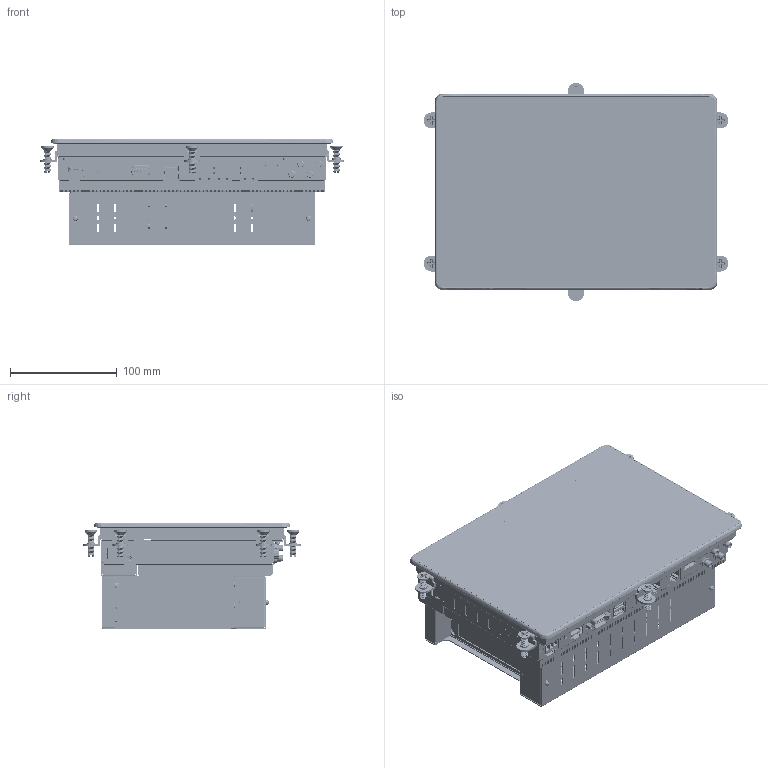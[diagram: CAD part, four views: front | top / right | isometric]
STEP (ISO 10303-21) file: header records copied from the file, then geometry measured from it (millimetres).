
FILE_DESCRIPTION((''),'2;1');
FILE_NAME('NP4C-101-Z','2026-06-02T10:06:03',('gijyu181'),(''),'CREO PARAMETRIC BY PTC INC, 2018050','CREO PARAMETRIC BY PTC INC, 2018050','');
FILE_SCHEMA(('CONFIG_CONTROL_DESIGN','SHAPE_APPEARANCE_LAYERS_GROUPS'));
Products named in the file (1): NP4C-101-Z
Bounding box: 285.6 x 204.6 x 100.05 mm (x, y, z)
Volume: 1447707.4 mm3; surface area: 914841.5 mm2
Topology: 40 solids, 129 shells, 32076 faces, 90685 edges, 59811 vertices
Faces by surface type: plane 21971, cylinder 7337, extrusion 1414, cone 607, bspline 328, torus 280, sphere 123, revolution 16
Entity records: 1256359 total; most frequent: CARTESIAN_POINT 258581, ORIENTED_EDGE 180261, DIRECTION 162719, EDGE_CURVE 90597, VECTOR 70497, LINE 69083, VERTEX_POINT 59812, AXIS2_PLACEMENT_3D 46103
